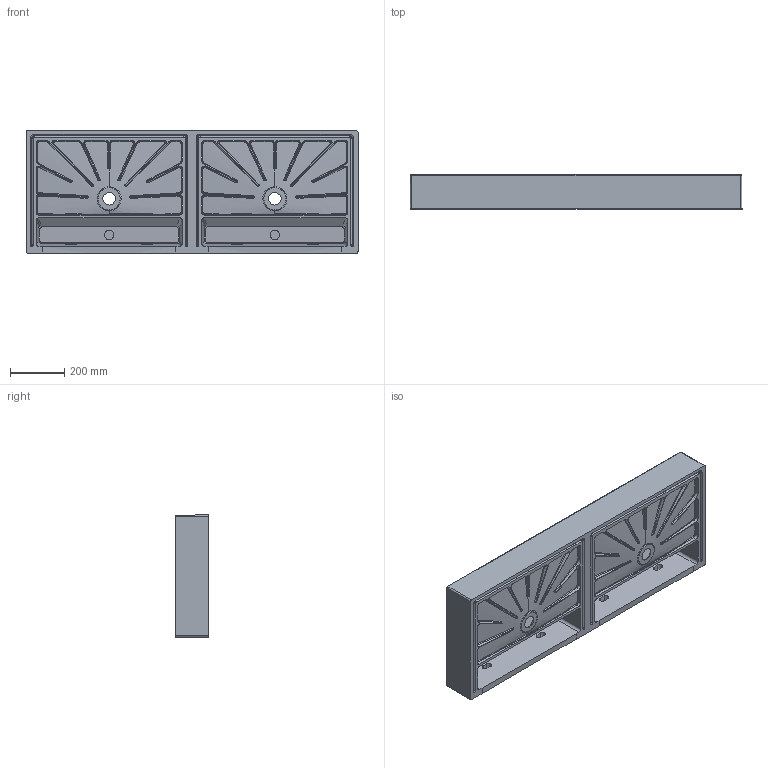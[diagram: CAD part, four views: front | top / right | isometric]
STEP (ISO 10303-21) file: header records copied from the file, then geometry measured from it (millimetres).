
FILE_DESCRIPTION (( 'STEP AP203' ), '1' );
FILE_NAME ('EQA122_2V.STEP', '2017-03-06T17:01:39', ( '' ), ( '' ), 'SwSTEP 2.0', 'SolidWorks 2017', '' );
FILE_SCHEMA (( 'CONFIG_CONTROL_DESIGN' ));
Products named in the file (1): EQA122_2V
Bounding box: 1222.18 x 125 x 450 mm (x, y, z)
Volume: 20036776.4 mm3; surface area: 2085505.2 mm2
Topology: 1 solids, 1 shells, 522 faces, 1306 edges, 782 vertices
Faces by surface type: bspline 224, cylinder 144, plane 122, sphere 16, torus 12, cone 4
Full cylindrical faces by diameter (mm): 35 x2
Entity records: 43343 total; most frequent: CARTESIAN_POINT 32885, ORIENTED_EDGE 2560, DIRECTION 1660, EDGE_CURVE 1280, VERTEX_POINT 778, AXIS2_PLACEMENT_3D 631, EDGE_LOOP 552, FACE_OUTER_BOUND 528
